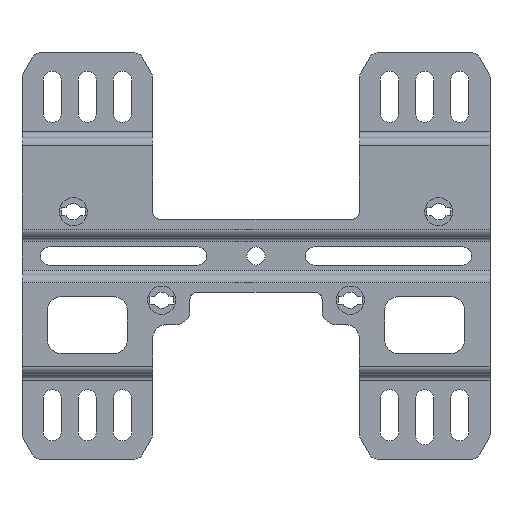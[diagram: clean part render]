
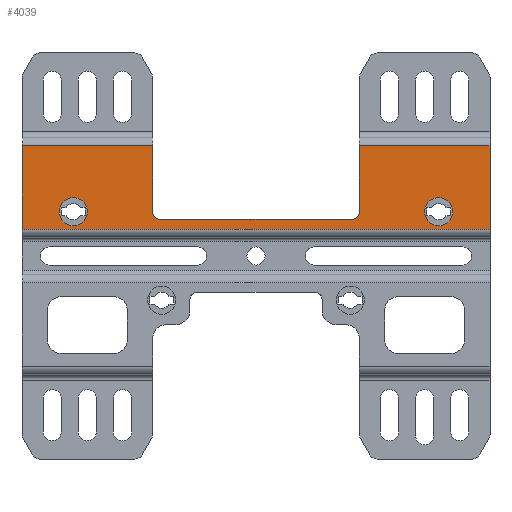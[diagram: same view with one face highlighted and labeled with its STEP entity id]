
A CAD part, top view. The second image highlights one B-rep face of the part: STEP entity #4039.
In plain terms, the highlighted planar face has unit normal (0, 0, 1).
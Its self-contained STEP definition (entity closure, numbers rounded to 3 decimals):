
#355=CARTESIAN_POINT('',(60.,31.466,0.));
#356=DIRECTION('',(0.,0.,1.));
#357=DIRECTION('',(1.,0.,0.));
#358=AXIS2_PLACEMENT_3D('',#355,#356,#357);
#360=CARTESIAN_POINT('',(60.,31.466,0.));
#361=DIRECTION('',(0.,0.,1.));
#362=DIRECTION('',(-1.,0.,0.));
#363=AXIS2_PLACEMENT_3D('',#360,#361,#362);
#365=CARTESIAN_POINT('',(320.,31.466,0.));
#366=DIRECTION('',(0.,0.,1.));
#367=DIRECTION('',(1.,0.,0.));
#368=AXIS2_PLACEMENT_3D('',#365,#366,#367);
#370=CARTESIAN_POINT('',(320.,31.466,0.));
#371=DIRECTION('',(0.,0.,1.));
#372=DIRECTION('',(-1.,0.,0.));
#373=AXIS2_PLACEMENT_3D('',#370,#371,#372);
#421=DIRECTION('',(0.,-1.,0.));
#422=VECTOR('',#421,47.466);
#423=CARTESIAN_POINT('',(263.499,78.466,0.));
#424=LINE('',#423,#422);
#425=DIRECTION('',(1.,0.,0.));
#426=VECTOR('',#425,93.001);
#427=CARTESIAN_POINT('',(263.499,78.466,0.));
#428=LINE('',#427,#426);
#429=DIRECTION('',(-1.,0.,0.));
#430=VECTOR('',#429,333.001);
#431=CARTESIAN_POINT('',(356.501,19.,0.));
#432=LINE('',#431,#430);
#433=DIRECTION('',(1.,0.,0.));
#434=VECTOR('',#433,93.001);
#435=CARTESIAN_POINT('',(23.499,78.466,0.));
#436=LINE('',#435,#434);
#437=DIRECTION('',(0.,-1.,0.));
#438=VECTOR('',#437,47.466);
#439=CARTESIAN_POINT('',(116.501,78.466,0.));
#440=LINE('',#439,#438);
#724=DIRECTION('',(0.,-1.,0.));
#725=VECTOR('',#724,59.466);
#726=CARTESIAN_POINT('',(23.499,78.466,0.));
#727=LINE('',#726,#725);
#781=CARTESIAN_POINT('',(121.501,31.,0.));
#782=DIRECTION('',(0.,0.,-1.));
#783=DIRECTION('',(0.,-1.,0.));
#784=AXIS2_PLACEMENT_3D('',#781,#782,#783);
#790=DIRECTION('',(-1.,0.,0.));
#791=VECTOR('',#790,136.999);
#792=CARTESIAN_POINT('',(258.499,26.,0.));
#793=LINE('',#792,#791);
#798=CARTESIAN_POINT('',(258.499,31.,0.));
#799=DIRECTION('',(0.,0.,-1.));
#800=DIRECTION('',(1.,0.,0.));
#801=AXIS2_PLACEMENT_3D('',#798,#799,#800);
#868=DIRECTION('',(0.,1.,0.));
#869=VECTOR('',#868,59.466);
#870=CARTESIAN_POINT('',(356.501,19.,0.));
#871=LINE('',#870,#869);
#2820=CARTESIAN_POINT('',(70.,31.466,0.));
#2821=CARTESIAN_POINT('',(50.,31.466,0.));
#2822=VERTEX_POINT('',#2820);
#2823=VERTEX_POINT('',#2821);
#2824=CARTESIAN_POINT('',(330.,31.466,0.));
#2825=CARTESIAN_POINT('',(310.,31.466,0.));
#2826=VERTEX_POINT('',#2824);
#2827=VERTEX_POINT('',#2825);
#2965=CARTESIAN_POINT('',(356.501,78.466,0.));
#2967=VERTEX_POINT('',#2965);
#2968=CARTESIAN_POINT('',(23.499,78.466,0.));
#2970=VERTEX_POINT('',#2968);
#3060=CARTESIAN_POINT('',(356.501,19.,0.));
#3061=VERTEX_POINT('',#3060);
#3062=CARTESIAN_POINT('',(23.499,19.,0.));
#3063=VERTEX_POINT('',#3062);
#3396=CARTESIAN_POINT('',(263.499,78.466,0.));
#3397=VERTEX_POINT('',#3396);
#3398=CARTESIAN_POINT('',(116.501,78.466,0.));
#3399=VERTEX_POINT('',#3398);
#3564=CARTESIAN_POINT('',(263.499,31.,0.));
#3566=VERTEX_POINT('',#3564);
#3568=CARTESIAN_POINT('',(258.499,26.,0.));
#3570=VERTEX_POINT('',#3568);
#3573=CARTESIAN_POINT('',(116.501,31.,0.));
#3575=VERTEX_POINT('',#3573);
#3577=CARTESIAN_POINT('',(121.501,26.,0.));
#3579=VERTEX_POINT('',#3577);
#4001=CARTESIAN_POINT('',(0.,45.,0.));
#4002=DIRECTION('',(0.,0.,1.));
#4003=DIRECTION('',(0.,-1.,0.));
#4004=AXIS2_PLACEMENT_3D('',#4001,#4002,#4003);
#4005=PLANE('',#4004);
#4007=ORIENTED_EDGE('',*,*,#4006,.F.);
#4009=ORIENTED_EDGE('',*,*,#4008,.F.);
#4011=ORIENTED_EDGE('',*,*,#4010,.F.);
#4013=ORIENTED_EDGE('',*,*,#4012,.T.);
#4015=ORIENTED_EDGE('',*,*,#4014,.F.);
#4017=ORIENTED_EDGE('',*,*,#4016,.T.);
#4019=ORIENTED_EDGE('',*,*,#4018,.F.);
#4021=ORIENTED_EDGE('',*,*,#4020,.T.);
#4023=ORIENTED_EDGE('',*,*,#4022,.T.);
#4025=ORIENTED_EDGE('',*,*,#4024,.F.);
#4026=EDGE_LOOP('',(#4007,#4009,#4011,#4013,#4015,#4017,#4019,#4021,#4023,
#4025));
#4027=FACE_OUTER_BOUND('',#4026,.F.);
#4028=ORIENTED_EDGE('',*,*,#3899,.T.);
#4030=ORIENTED_EDGE('',*,*,#4029,.T.);
#4031=EDGE_LOOP('',(#4028,#4030));
#4032=FACE_BOUND('',#4031,.F.);
#4034=ORIENTED_EDGE('',*,*,#4033,.T.);
#4036=ORIENTED_EDGE('',*,*,#4035,.T.);
#4037=EDGE_LOOP('',(#4034,#4036));
#4038=FACE_BOUND('',#4037,.F.);
#359=CIRCLE('',#358,10.);
#364=CIRCLE('',#363,10.);
#369=CIRCLE('',#368,10.);
#374=CIRCLE('',#373,10.);
#785=CIRCLE('',#784,5.);
#802=CIRCLE('',#801,5.);
#3899=EDGE_CURVE('',#2822,#2823,#359,.T.);
#4006=EDGE_CURVE('',#3570,#3579,#793,.T.);
#4008=EDGE_CURVE('',#3566,#3570,#802,.T.);
#4010=EDGE_CURVE('',#3397,#3566,#424,.T.);
#4012=EDGE_CURVE('',#3397,#2967,#428,.T.);
#4014=EDGE_CURVE('',#3061,#2967,#871,.T.);
#4016=EDGE_CURVE('',#3061,#3063,#432,.T.);
#4018=EDGE_CURVE('',#2970,#3063,#727,.T.);
#4020=EDGE_CURVE('',#2970,#3399,#436,.T.);
#4022=EDGE_CURVE('',#3399,#3575,#440,.T.);
#4024=EDGE_CURVE('',#3579,#3575,#785,.T.);
#4029=EDGE_CURVE('',#2823,#2822,#364,.T.);
#4033=EDGE_CURVE('',#2826,#2827,#369,.T.);
#4035=EDGE_CURVE('',#2827,#2826,#374,.T.);
#4039=ADVANCED_FACE('',(#4027,#4032,#4038),#4005,.T.);
